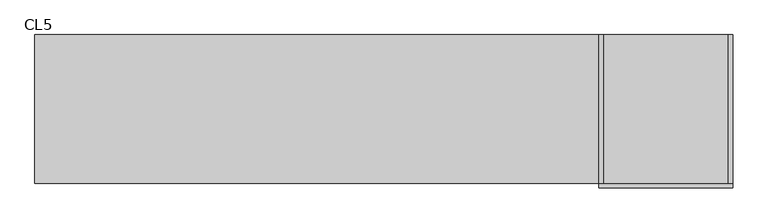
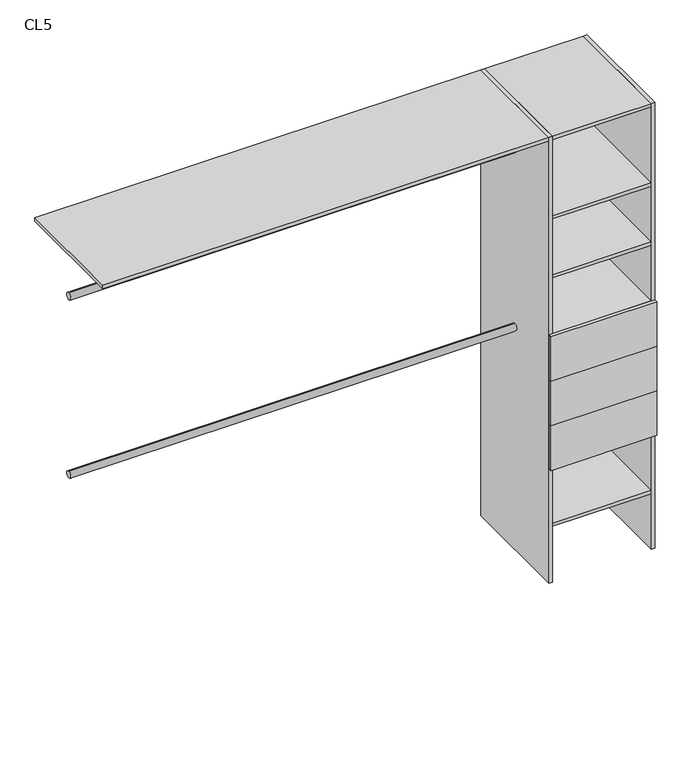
"""IFC4 building model written with IfcOpenShell, lengths in millimetres: furniture geometry, Closet 1estantes-1tubos_sin laterales : CL5."""

from ifc_helpers import new_model, si_unit, point, frame, frame_2d, origin, origin_with_axes, place, context, project, spatial, polyline, circle_curve, trimmed, segment, composite_curve, outline, extrude, source, transform, mapped, element, save


def cl5_9e973ffa(model_context):
    return source(origin(), model_context, "Body", "SweptSolid", [
        extrude(outline(polyline([(225.0, 100.0), (210.0, 100.0), (210.0, 600.0), (225.0, 600.0), (225.0, 100.0)])), origin_with_axes(), (0.0, 0.0, 1.0), 2000.0),
        extrude(outline(polyline([(-210.0, 100.0), (-225.0, 100.0), (-225.0, 600.0), (-210.0, 600.0), (-210.0, 100.0)])), origin_with_axes(), (0.0, 0.0, 1.0), 2000.0),
        extrude(outline(polyline([(225.0, 100.0), (225.0, 85.0), (-225.0, 85.0), (-225.0, 100.0), (225.0, 100.0)])), frame((0.0, 0.0, 915.0), z_axis=(0.0, 0.0, 1.0), x_axis=(1.0, 0.0, 0.0)), (0.0, 0.0, 1.0), 200.0),
        extrude(outline(polyline([(225.0, 100.0), (225.0, 85.0), (-225.0, 85.0), (-225.0, 100.0), (225.0, 100.0)])), frame((0.0, 0.0, 715.0), z_axis=(0.0, 0.0, 1.0), x_axis=(1.0, 0.0, 0.0)), (0.0, 0.0, 1.0), 200.0),
        extrude(outline(polyline([(225.0, 100.0), (225.0, 85.0), (-225.0, 85.0), (-225.0, 100.0), (225.0, 100.0)])), frame((0.0, 0.0, 515.0), z_axis=(0.0, 0.0, 1.0), x_axis=(1.0, 0.0, 0.0)), (0.0, 0.0, 1.0), 200.0),
        extrude(outline(polyline([(210.0, 100.0), (-210.0, 100.0), (-210.0, 600.0), (210.0, 600.0), (210.0, 100.0)])), frame((0.0, 0.0, 1100.0), z_axis=(0.0, 0.0, 1.0), x_axis=(1.0, 0.0, 0.0)), (0.0, 0.0, 1.0), 15.0),
        extrude(outline(composite_curve([segment(trimmed(circle_curve(frame_2d((350.0, 1000.0)), 15.0), [point((350.0, 1015.0))], [point((350.0, 985.0))], False, "CARTESIAN"), True, "CONTINUOUS"), segment(trimmed(circle_curve(frame_2d((350.0, 1000.0)), 15.0), [point((350.0, 985.0))], [point((350.0, 1015.0))], False, "CARTESIAN"), True, "CONTINUOUS")], self_intersect=False)), frame((-2120.0, 0.0, 0.0), z_axis=(1.0, 0.0, 0.0), x_axis=(0.0, 1.0, 0.0)), (0.0, 0.0, 1.0), 1895.0),
        extrude(outline(composite_curve([segment(trimmed(circle_curve(frame_2d((350.0, 1800.0)), 15.0), [point((350.0, 1815.0))], [point((350.0, 1785.0))], False, "CARTESIAN"), True, "CONTINUOUS"), segment(trimmed(circle_curve(frame_2d((350.0, 1800.0)), 15.0), [point((350.0, 1785.0))], [point((350.0, 1815.0))], False, "CARTESIAN"), True, "CONTINUOUS")], self_intersect=False)), frame((-2120.0, 0.0, 0.0), z_axis=(1.0, 0.0, 0.0), x_axis=(0.0, 1.0, 0.0)), (0.0, 0.0, 1.0), 1895.0),
        extrude(outline(polyline([(210.0, 100.0), (-210.0, 100.0), (-210.0, 600.0), (210.0, 600.0), (210.0, 100.0)])), frame((0.0, 0.0, 250.0), z_axis=(0.0, 0.0, 1.0), x_axis=(1.0, 0.0, 0.0)), (0.0, 0.0, 1.0), 15.0),
        extrude(outline(polyline([(210.0, 100.0), (-210.0, 100.0), (-210.0, 600.0), (210.0, 600.0), (210.0, 100.0)])), frame((0.0, 0.0, 515.0), z_axis=(0.0, 0.0, 1.0), x_axis=(1.0, 0.0, 0.0)), (0.0, 0.0, 1.0), 15.0),
        extrude(outline(polyline([(210.0, 100.0), (-210.0, 100.0), (-210.0, 600.0), (210.0, 600.0), (210.0, 100.0)])), frame((0.0, 0.0, 1365.0), z_axis=(0.0, 0.0, 1.0), x_axis=(1.0, 0.0, 0.0)), (0.0, 0.0, 1.0), 15.0),
        extrude(outline(polyline([(210.0, 100.0), (-210.0, 100.0), (-210.0, 600.0), (210.0, 600.0), (210.0, 100.0)])), frame((0.0, 0.0, 1630.0), z_axis=(0.0, 0.0, 1.0), x_axis=(1.0, 0.0, 0.0)), (0.0, 0.0, 1.0), 15.0),
        extrude(outline(polyline([(-210.0, 100.0), (-2120.0, 100.0), (-2120.0, 600.0), (-210.0, 600.0), (-210.0, 100.0)])), frame((0.0, 0.0, 1985.0), z_axis=(0.0, 0.0, 1.0), x_axis=(1.0, 0.0, 0.0)), (0.0, 0.0, 1.0), 15.0),
        extrude(outline(polyline([(210.0, 100.0), (-210.0, 100.0), (-210.0, 600.0), (210.0, 600.0), (210.0, 100.0)])), frame((0.0, 0.0, 1985.0), z_axis=(0.0, 0.0, 1.0), x_axis=(1.0, 0.0, 0.0)), (0.0, 0.0, 1.0), 15.0),
    ])


if __name__ == "__main__":
    model = new_model("IFC4")
    model_context = context("Model", 3, world=origin())
    ifc_project = project(units=[si_unit("LENGTHUNIT", "METRE", prefix="MILLI")], contexts=[model_context])
    site = spatial("IfcSite", under=ifc_project)
    building = spatial("IfcBuilding", under=site)
    placement = place(None, origin())
    cl5_shape = cl5_9e973ffa(model_context)
    element("IfcFurniture", 1, ObjectType="Closet 1estantes-1tubos_sin laterales : CL5", at=placement, inside=building, context=model_context, shape_type="MappedRepresentation", body=[
        mapped(cl5_shape, transform((0.0, 0.0, 0.0), x_axis=(1.0, 0.0, 0.0), y_axis=(0.0, 1.0, 0.0), z_axis=(0.0, 0.0, 1.0))),
    ])
    save(model, "model.ifc")
